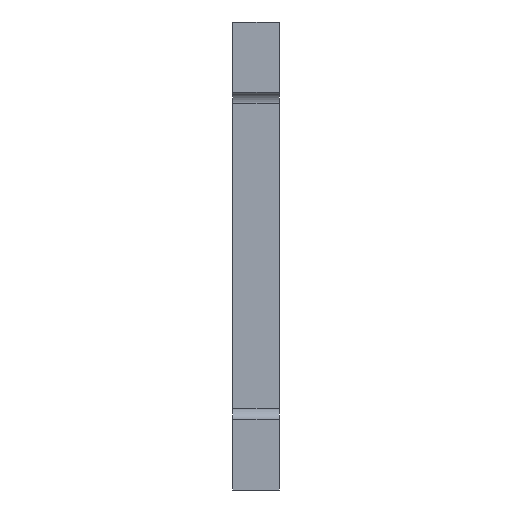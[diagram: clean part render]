
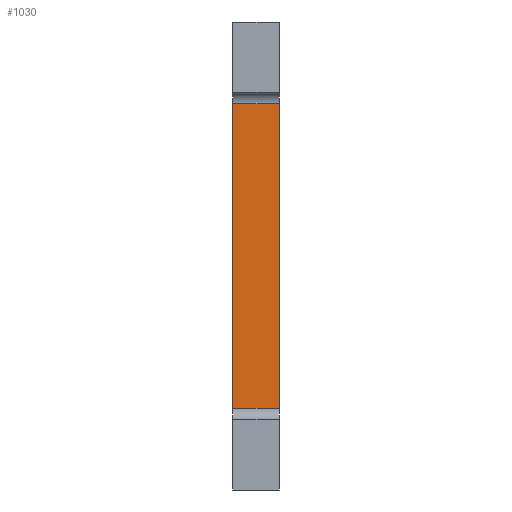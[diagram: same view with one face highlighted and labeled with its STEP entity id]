
A CAD part, left-side view. The second image highlights one B-rep face of the part: STEP entity #1030.
In plain terms, the highlighted planar face has unit normal (-1, 0, 0).
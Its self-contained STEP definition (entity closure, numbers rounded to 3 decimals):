
#124=FACE_OUTER_BOUND('',#174,.T.);
#174=EDGE_LOOP('',(#831,#832,#833,#834));
#298=LINE('',#1662,#410);
#299=LINE('',#1665,#411);
#300=LINE('',#1667,#412);
#301=LINE('',#1668,#413);
#410=VECTOR('',#1370,10.);
#411=VECTOR('',#1373,10.);
#412=VECTOR('',#1374,10.);
#413=VECTOR('',#1375,10.);
#509=VERTEX_POINT('',#1658);
#510=VERTEX_POINT('',#1660);
#511=VERTEX_POINT('',#1664);
#512=VERTEX_POINT('',#1666);
#646=EDGE_CURVE('',#509,#510,#298,.T.);
#647=EDGE_CURVE('',#509,#511,#299,.T.);
#648=EDGE_CURVE('',#512,#510,#300,.T.);
#649=EDGE_CURVE('',#511,#512,#301,.T.);
#831=ORIENTED_EDGE('',*,*,#647,.F.);
#832=ORIENTED_EDGE('',*,*,#646,.T.);
#833=ORIENTED_EDGE('',*,*,#648,.F.);
#834=ORIENTED_EDGE('',*,*,#649,.F.);
#982=PLANE('',#1122);
#1030=ADVANCED_FACE('',(#124),#982,.T.);
#1122=AXIS2_PLACEMENT_3D('',#1663,#1371,#1372);
#1370=DIRECTION('',(0.,1.,0.));
#1371=DIRECTION('center_axis',(-1.,0.,0.));
#1372=DIRECTION('ref_axis',(0.,0.,1.));
#1373=DIRECTION('',(0.,0.,-1.));
#1374=DIRECTION('',(0.,0.,1.));
#1375=DIRECTION('',(0.,1.,0.));
#1658=CARTESIAN_POINT('',(-49.,0.,10.5));
#1660=CARTESIAN_POINT('',(-49.,4.,10.5));
#1662=CARTESIAN_POINT('',(-49.,0.,10.5));
#1663=CARTESIAN_POINT('Origin',(-49.,0.,-15.5));
#1664=CARTESIAN_POINT('',(-49.,0.,-15.5));
#1665=CARTESIAN_POINT('',(-49.,0.,10.5));
#1666=CARTESIAN_POINT('',(-49.,4.,-15.5));
#1667=CARTESIAN_POINT('',(-49.,4.,10.5));
#1668=CARTESIAN_POINT('',(-49.,0.,-15.5));
